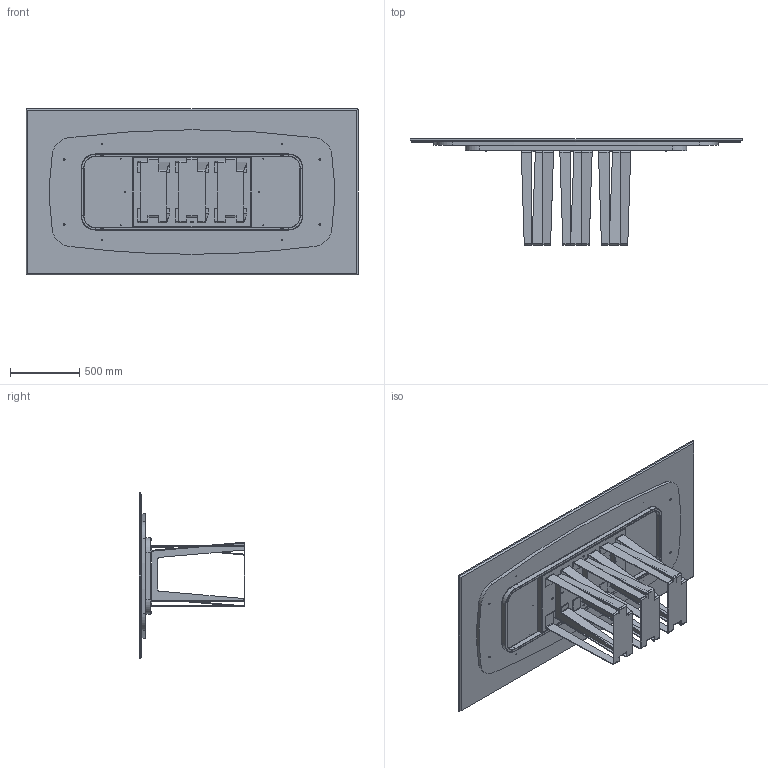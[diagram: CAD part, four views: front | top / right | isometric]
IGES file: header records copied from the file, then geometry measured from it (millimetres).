
Start section: SolidWorks IGES file using analytic representation for surfaces
Global section: file name: Y:\eforma\TECNICO\SOLIDWORKS\E-FORMA\1-TAVOLI\NARCISO\02 parts\NA23M.IGS; native system: SolidWorks 2022; preprocessor: SolidWorks 2022; author: eforma.tech; date: 240807.164120; units: millimetre
Bounding box: 2400 x 765 x 1200 mm (x, y, z)
Volume: 111862305.1 mm3; surface area: 14356656.7 mm2
Topology: 27 solids, 27 shells, 1182 faces, 2904 edges, 1747 vertices
Faces by surface type: plane 587, revolution 559, bspline 36
